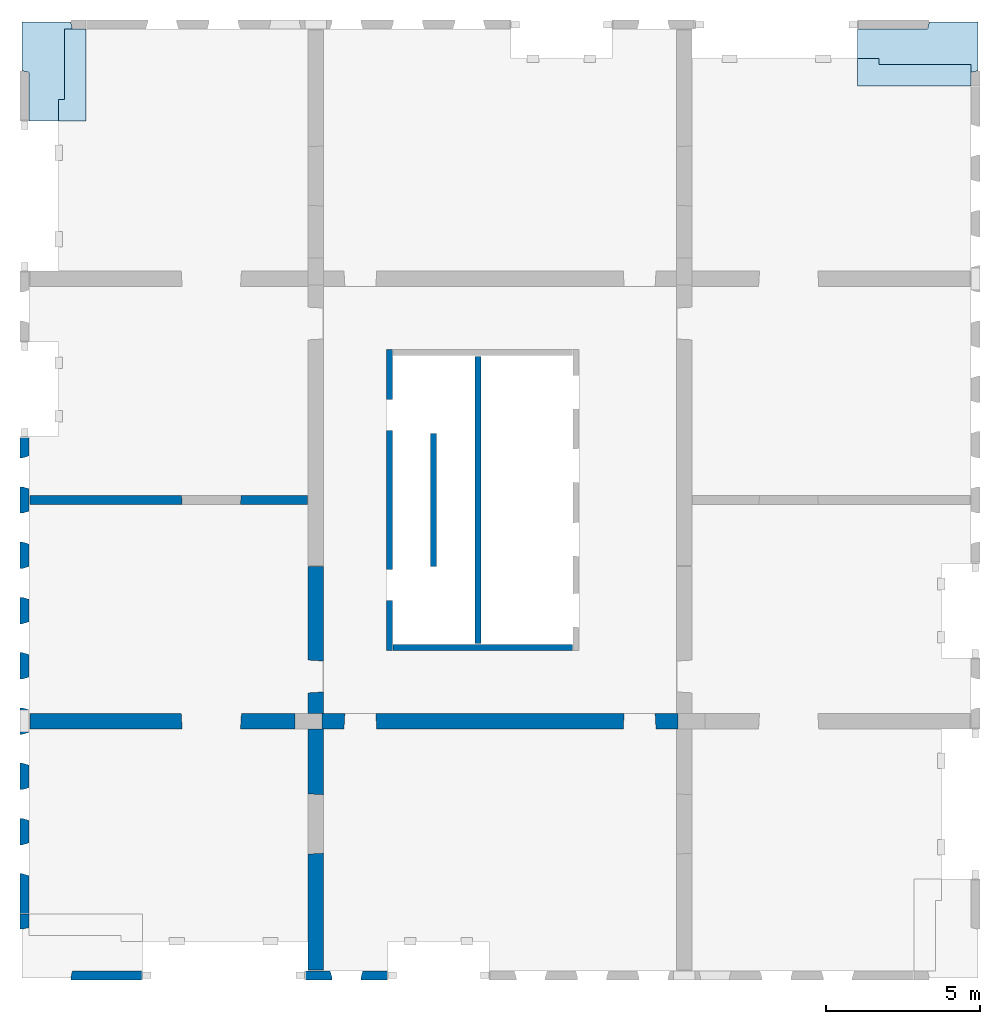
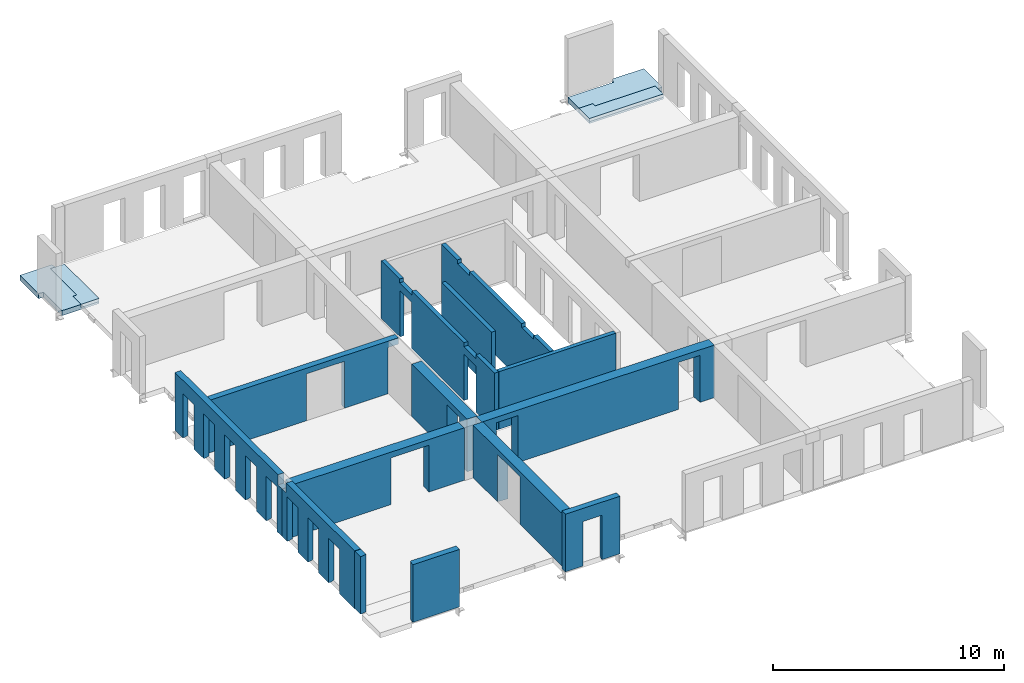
# One storey, part 2 of 4: 14 walls, 4 slabs, 32 openings.
"""IFC2X3 building model written with IfcOpenShell, lengths in millimetres."""

from ifc_helpers import new_model, entity, si_unit, converted_unit, derived_unit, direction, frame, frame_2d, origin, origin_2d_with_axis, place, context, subcontext, project, spatial, polyline, rectangle, outline, extrude, faceted_brep, material, layer, layer_set, layer_usage, type_object, element, save


model = new_model("IFC2X3")

# Units and contexts
model_context = context("Model", 3, precision=0.01, world=origin(), true_north=direction((6.12303176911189e-17, 1.0)))
body_context = subcontext(model_context, "Body", "Model", "MODEL_VIEW")
ifc_project = project(units=[si_unit("LENGTHUNIT", "METRE", prefix="MILLI"), si_unit("AREAUNIT", "SQUARE_METRE"), si_unit("VOLUMEUNIT", "CUBIC_METRE"), converted_unit("PLANEANGLEUNIT", "DEGREE", entity("IfcRatioMeasure", 0.0174532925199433), si_unit("PLANEANGLEUNIT", "RADIAN"), dimensions=[0, 0, 0, 0, 0, 0, 0]), si_unit("MASSUNIT", "GRAM", prefix="KILO"), derived_unit("MASSDENSITYUNIT", [(si_unit("MASSUNIT", "GRAM", prefix="KILO"), 1), (si_unit("LENGTHUNIT", "METRE"), -3)]), si_unit("TIMEUNIT", "SECOND"), si_unit("FREQUENCYUNIT", "HERTZ"), si_unit("THERMODYNAMICTEMPERATUREUNIT", "DEGREE_CELSIUS"), derived_unit("THERMALTRANSMITTANCEUNIT", [(si_unit("MASSUNIT", "GRAM", prefix="KILO"), 1), (si_unit("THERMODYNAMICTEMPERATUREUNIT", "KELVIN"), -1), (si_unit("TIMEUNIT", "SECOND"), -3)]), derived_unit("VOLUMETRICFLOWRATEUNIT", [(si_unit("LENGTHUNIT", "METRE"), 3), (si_unit("TIMEUNIT", "SECOND"), -1)]), si_unit("ELECTRICCURRENTUNIT", "AMPERE"), si_unit("ELECTRICVOLTAGEUNIT", "VOLT"), si_unit("POWERUNIT", "WATT"), si_unit("FORCEUNIT", "NEWTON", prefix="KILO"), si_unit("ILLUMINANCEUNIT", "LUX"), si_unit("LUMINOUSFLUXUNIT", "LUMEN"), si_unit("LUMINOUSINTENSITYUNIT", "CANDELA"), derived_unit("USERDEFINED", [(si_unit("MASSUNIT", "GRAM", prefix="KILO"), -1), (si_unit("LENGTHUNIT", "METRE"), -2), (si_unit("TIMEUNIT", "SECOND"), 3), (si_unit("LUMINOUSFLUXUNIT", "LUMEN"), 1)]), derived_unit("LINEARVELOCITYUNIT", [(si_unit("LENGTHUNIT", "METRE"), 1), (si_unit("TIMEUNIT", "SECOND"), -1)]), si_unit("PRESSUREUNIT", "PASCAL"), derived_unit("USERDEFINED", [(si_unit("LENGTHUNIT", "METRE"), -2), (si_unit("MASSUNIT", "GRAM", prefix="KILO"), 1), (si_unit("TIMEUNIT", "SECOND"), -2)])], contexts=[model_context])

# Site, building, storey
site_placement = place(None, origin())
site = spatial("IfcSite", under=ifc_project, at=site_placement, Name="Default", CompositionType="ELEMENT")
building_placement = place(site_placement, origin())
building = spatial("IfcBuilding", under=site, at=building_placement, Name="niet gebruiken", CompositionType="ELEMENT")
storey_placement = place(building_placement, frame((0.0, 0.0, 60840.0)))
storey = spatial("IfcBuildingStorey", under=building, at=storey_placement, Name="19 negentiende verdieping", CompositionType="ELEMENT", Elevation=60840.0)

# Slabs
ifc_material_1 = material(Name="NLRS_f2_beton prefab")
ifc_layer_1 = layer(ifc_material_1, 270.0)
ifc_layer_set_1 = layer_set([ifc_layer_1], Name="Floor:NLRS_23.22_FL_beton prefab d=270 3D element_gen")
ifc_layer_usage_1 = layer_usage(ifc_layer_set_1, "AXIS3", "POSITIVE", 0.0)
slab_1_placement = place(storey_placement, origin())
element("IfcSlab", 1, at=slab_1_placement, inside=storey, material=ifc_layer_usage_1, Name="Floor:NLRS_23.22_FL_beton prefab d=270 3D element_gen", ObjectType="Floor:NLRS_23.22_FL_beton prefab d=270 3D element_gen", PredefinedType="LANDING", context=body_context, shape_type="SweptSolid", body=[
    extrude(outline(polyline([(-322.675940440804, -982.471394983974), (1267.47139498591, -982.471394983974), (1267.47139498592, 607.675940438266), (1034.47139498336, 655.152429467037), (1034.47139498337, 1100.5286050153), (-1955.52860501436, 1100.52860501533), (-1955.52860501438, -749.471394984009), (-370.152429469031, -749.471394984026), (-322.675940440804, -982.471394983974)])), frame((127169.471394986, 31795.5286050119, -90.0), z_axis=(0.0, 0.0, -1.0), x_axis=(0.0, 1.0, 0.0)), (0.0, 0.0, 1.0), 269.999999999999),
])
ifc_material_2 = material(Name="NLRS_f2_beton ihwg")
ifc_layer_2 = layer(ifc_material_2, 170.0)
ifc_layer_set_2 = layer_set([ifc_layer_2], Name="Floor:NLRS_23.21_FL_beton ihwg d=170_gen")
ifc_layer_usage_2 = layer_usage(ifc_layer_set_2, "AXIS3", "POSITIVE", 0.0)
slab_2_placement = place(storey_placement, origin())
element("IfcSlab", 2, at=slab_2_placement, inside=storey, material=ifc_layer_usage_2, Name="Floor:NLRS_23.21_FL_beton ihwg d=170_gen", ObjectType="Floor:NLRS_23.21_FL_beton ihwg d=170_gen", PredefinedType="FLOOR", context=body_context, shape_type="SweptSolid", body=[
    extrude(outline(polyline([(-1230.0, -366.666666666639), (-530.0, -366.666666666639), (-530.0, -166.66666666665), (1760.0, -166.666666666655), (1760.0, 533.333333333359), (-1230.0, 533.333333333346), (-1230.0, -366.666666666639)])), frame((127736.666666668, 31070.0, -90.0), z_axis=(0.0, 0.0, -1.0), x_axis=(0.0, 1.0, 0.0)), (0.0, 0.0, 1.0), 169.999999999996),
])
ifc_layer_usage_3 = layer_usage(ifc_layer_set_1, "AXIS3", "POSITIVE", 0.0)
slab_3_placement = place(storey_placement, origin())
element("IfcSlab", 3, at=slab_3_placement, inside=storey, material=ifc_layer_usage_3, Name="Floor:NLRS_23.22_FL_beton prefab d=270 3D element_gen", ObjectType="Floor:NLRS_23.22_FL_beton prefab d=270 3D element_gen", PredefinedType="LANDING", context=body_context, shape_type="SweptSolid", body=[
    extrude(outline(polyline([(-1100.52860501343, -2480.52860501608), (749.471394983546, -2480.52860501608), (749.471394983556, -195.152429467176), (982.471394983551, -147.675940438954), (982.471394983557, 1442.47139498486), (-607.675940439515, 1442.47139498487), (-655.152429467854, 1209.47139498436), (-1100.52860501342, 1209.47139498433), (-1100.52860501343, -2480.52860501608)])), frame((155870.528605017, 32080.5286050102, -90.0), z_axis=(0.0, 0.0, -1.0), x_axis=(0.0, 1.0, 0.0)), (0.0, 0.0, 1.0), 269.999999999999),
])
ifc_layer_usage_4 = layer_usage(ifc_layer_set_2, "AXIS3", "POSITIVE", 0.0)
slab_4_placement = place(storey_placement, origin())
element("IfcSlab", 4, at=slab_4_placement, inside=storey, material=ifc_layer_usage_4, Name="Floor:NLRS_23.21_FL_beton ihwg d=170_gen", ObjectType="Floor:NLRS_23.21_FL_beton ihwg d=170_gen", PredefinedType="FLOOR", context=body_context, shape_type="SweptSolid", body=[
    extrude(outline(polyline([(-533.333333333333, -1463.33333333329), (366.666666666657, -1463.33333333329), (366.666666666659, -763.333333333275), (166.66666666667, -763.333333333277), (166.666666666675, 2226.66666666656), (-533.333333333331, 2226.66666666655), (-533.333333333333, -1463.33333333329)])), frame((154853.333333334, 31513.3333333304, -90.0), z_axis=(0.0, 0.0, -1.0), x_axis=(0.0, 1.0, 0.0)), (0.0, 0.0, 1.0), 169.999999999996),
])

# Wall, openings
ifc_layer_3 = layer(ifc_material_1, 200.0)
ifc_layer_set_3 = layer_set([ifc_layer_3], Name="Basic Wall:NLRS_22.21_WA_beton prefab d=200_gen")
ifc_layer_usage_5 = layer_usage(ifc_layer_set_3, "AXIS2", "NEGATIVE", 100.0)
wall_type_1 = type_object("IfcWallType", Name="Basic Wall:NLRS_22.21_WA_beton prefab d=200_gen", PredefinedType="STANDARD", material=ifc_layer_set_3)
wall_1_placement = place(storey_placement, frame((138150.0, 22400.0, -50.0), z_axis=(0.0, 0.0, 1.0), x_axis=(0.0, -1.0, 0.0)))
wall_1 = element("IfcWallStandardCase", 5, at=wall_1_placement, inside=storey, type_object=wall_type_1, material=ifc_layer_usage_5, Name="Basic Wall:NLRS_22.21_WA_beton prefab d=200_gen", ObjectType="Basic Wall:NLRS_22.21_WA_beton prefab d=200_gen", context=body_context, shape_type="SweptSolid", body=[
    extrude(rectangle(XDim=9800.0, YDim=199.999999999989, at=frame_2d((4900.0, 3.76587649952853e-13), x_axis=(-1.0, 0.0))), origin(), (0.0, 0.0, 1.0), 3040.0),
])
opening_1_placement = place(wall_1_placement, origin())
element("IfcOpeningElement", 6, at=opening_1_placement, cuts=wall_1, Name="Basic Wall:NLRS_22.21_WA_beton prefab d=200_gen", ObjectType="Opening", context=body_context, shape_type="SweptSolid", body=[
    extrude(rectangle(XDim=199.999999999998, YDim=1044.0, at=frame_2d((4.33431068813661e-12, 0.0), x_axis=(1.0, 0.0))), frame((7672.0, -100.0, 2940.0), z_axis=(0.0, 1.0, 0.0), x_axis=(0.0, 0.0, -1.0)), (0.0, 0.0, 1.0), 199.999999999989),
])
opening_2_placement = place(wall_1_placement, origin())
element("IfcOpeningElement", 7, at=opening_2_placement, cuts=wall_1, Name="Basic Wall:NLRS_22.21_WA_beton prefab d=200_gen", ObjectType="Opening", context=body_context, shape_type="SweptSolid", body=[
    extrude(rectangle(XDim=199.999999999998, YDim=1044.0, at=frame_2d((4.33431068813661e-12, 2.1600499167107e-12), x_axis=(1.0, 0.0))), frame((2128.0, -100.0, 2940.0), z_axis=(0.0, 1.0, 0.0), x_axis=(0.0, 0.0, -1.0)), (0.0, 0.0, 1.0), 199.999999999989),
])
opening_3_placement = place(wall_1_placement, origin())
element("IfcOpeningElement", 8, at=opening_3_placement, cuts=wall_1, Name="Basic Wall:NLRS_22.21_WA_beton prefab d=200_gen", ObjectType="Opening", context=body_context, shape_type="SweptSolid", body=[
    extrude(rectangle(XDim=2435.00000000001, YDim=1015.99999999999, at=frame_2d((4.32009983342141e-12, 1.10844666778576e-12), x_axis=(1.0, 0.0))), frame((7672.0, -100.0, 1217.50000000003), z_axis=(0.0, 1.0, 0.0), x_axis=(0.0, 0.0, -1.0)), (0.0, 0.0, 1.0), 199.999999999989),
])
opening_4_placement = place(wall_1_placement, origin())
element("IfcOpeningElement", 9, at=opening_4_placement, cuts=wall_1, Name="Basic Wall:NLRS_22.21_WA_beton prefab d=200_gen", ObjectType="Opening", context=body_context, shape_type="SweptSolid", body=[
    extrude(rectangle(XDim=2435.00000000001, YDim=1015.99999999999, at=frame_2d((4.32009983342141e-12, -2.18847162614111e-12), x_axis=(1.0, 0.0))), frame((2128.0, -100.0, 1217.50000000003), z_axis=(0.0, 1.0, 0.0), x_axis=(0.0, 0.0, -1.0)), (0.0, 0.0, 1.0), 199.999999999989),
])

ifc_layer_usage_6 = layer_usage(ifc_layer_set_3, "AXIS2", "NEGATIVE", 100.0)
wall_2_placement = place(storey_placement, frame((141030.0, 22180.0, -50.0), z_axis=(0.0, 0.0, 1.0), x_axis=(0.0, -1.0, 0.0)))
wall_2 = element("IfcWallStandardCase", 10, at=wall_2_placement, inside=storey, type_object=wall_type_1, material=ifc_layer_usage_6, Name="Basic Wall:NLRS_22.21_WA_beton prefab d=200_gen", ObjectType="Basic Wall:NLRS_22.21_WA_beton prefab d=200_gen", context=body_context, shape_type="SweptSolid", body=[
    extrude(rectangle(XDim=9360.0, YDim=199.999999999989, at=frame_2d((4680.0, -2.8421709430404e-14), x_axis=(-1.0, 0.0))), origin(), (0.0, 0.0, 1.0), 3040.0),
])
opening_5_placement = place(wall_2_placement, origin())
element("IfcOpeningElement", 11, at=opening_5_placement, cuts=wall_2, Name="Basic Wall:NLRS_22.21_WA_beton prefab d=200_gen", ObjectType="Opening", context=body_context, shape_type="SweptSolid", body=[
    extrude(rectangle(XDim=70.0000000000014, YDim=1044.00000000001, at=origin_2d_with_axis()), frame((7452.0, -100.0, 35.0), z_axis=(0.0, 1.0, 0.0), x_axis=(0.0, 0.0, -1.0)), (0.0, 0.0, 1.0), 199.999999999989),
])
opening_6_placement = place(wall_2_placement, origin())
element("IfcOpeningElement", 12, at=opening_6_placement, cuts=wall_2, Name="Basic Wall:NLRS_22.21_WA_beton prefab d=200_gen", ObjectType="Opening", context=body_context, shape_type="SweptSolid", body=[
    extrude(rectangle(XDim=70.0000000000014, YDim=1044.00000000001, at=origin_2d_with_axis()), frame((1908.0, -100.0, 35.0), z_axis=(0.0, 1.0, 0.0), x_axis=(0.0, 0.0, -1.0)), (0.0, 0.0, 1.0), 199.999999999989),
])
opening_7_placement = place(wall_2_placement, origin())
element("IfcOpeningElement", 13, at=opening_7_placement, cuts=wall_2, Name="Basic Wall:NLRS_22.21_WA_beton prefab d=200_gen", ObjectType="Opening", context=body_context, shape_type="SweptSolid", body=[
    extrude(rectangle(XDim=199.999999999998, YDim=1044.00000000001, at=frame_2d((4.33431068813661e-12, 0.0), x_axis=(1.0, 0.0))), frame((1908.0, -100.0, 2940.0), z_axis=(0.0, 1.0, 0.0), x_axis=(0.0, 0.0, -1.0)), (0.0, 0.0, 1.0), 199.999999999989),
])
opening_8_placement = place(wall_2_placement, origin())
element("IfcOpeningElement", 14, at=opening_8_placement, cuts=wall_2, Name="Basic Wall:NLRS_22.21_WA_beton prefab d=200_gen", ObjectType="Opening", context=body_context, shape_type="SweptSolid", body=[
    extrude(rectangle(XDim=199.999999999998, YDim=1044.00000000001, at=frame_2d((4.33431068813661e-12, 0.0), x_axis=(1.0, 0.0))), frame((7452.0, -100.0, 2940.0), z_axis=(0.0, 1.0, 0.0), x_axis=(0.0, 0.0, -1.0)), (0.0, 0.0, 1.0), 199.999999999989),
])
opening_9_placement = place(wall_2_placement, origin())
element("IfcOpeningElement", 15, at=opening_9_placement, cuts=wall_2, Name="Basic Wall:NLRS_22.21_WA_beton prefab d=200_gen", ObjectType="Recess", context=body_context, shape_type="SweptSolid", body=[
    extrude(rectangle(XDim=399.999999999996, YDim=280.000000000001, at=frame_2d((-2.1600499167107e-12, 0.0), x_axis=(0.0, 1.0))), frame((770.0, -60.0, 438.0), z_axis=(0.0, 1.0, 0.0), x_axis=(1.0, 0.0, 0.0)), (0.0, 0.0, 1.0), 159.999999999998),
])
opening_10_placement = place(wall_2_placement, origin())
element("IfcOpeningElement", 16, at=opening_10_placement, cuts=wall_2, Name="Basic Wall:NLRS_22.21_WA_beton prefab d=200_gen", ObjectType="Recess", context=body_context, shape_type="SweptSolid", body=[
    extrude(rectangle(XDim=399.999999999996, YDim=280.000000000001, at=frame_2d((-2.1600499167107e-12, 0.0), x_axis=(0.0, 1.0))), frame((1570.0, -60.0, 438.0), z_axis=(0.0, 1.0, 0.0), x_axis=(1.0, 0.0, 0.0)), (0.0, 0.0, 1.0), 159.999999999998),
])
opening_11_placement = place(wall_2_placement, origin())
element("IfcOpeningElement", 17, at=opening_11_placement, cuts=wall_2, Name="Basic Wall:NLRS_22.21_WA_beton prefab d=200_gen", ObjectType="Recess", context=body_context, shape_type="SweptSolid", body=[
    extrude(rectangle(XDim=399.999999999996, YDim=279.999999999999, at=frame_2d((-1.08002495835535e-12, 0.0), x_axis=(0.0, 1.0))), frame((3160.0, -60.0, 438.0), z_axis=(0.0, 1.0, 0.0), x_axis=(1.0, 0.0, 0.0)), (0.0, 0.0, 1.0), 159.999999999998),
])
opening_12_placement = place(wall_2_placement, origin())
element("IfcOpeningElement", 18, at=opening_12_placement, cuts=wall_2, Name="Basic Wall:NLRS_22.21_WA_beton prefab d=200_gen", ObjectType="Recess", context=body_context, shape_type="SweptSolid", body=[
    extrude(rectangle(XDim=399.999999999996, YDim=279.999999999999, at=frame_2d((1.08002495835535e-12, 0.0), x_axis=(0.0, 1.0))), frame((3960.0, -60.0, 438.0), z_axis=(0.0, 1.0, 0.0), x_axis=(1.0, 0.0, 0.0)), (0.0, 0.0, 1.0), 159.999999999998),
])

# Walls
ifc_layer_usage_7 = layer_usage(ifc_layer_set_3, "AXIS2", "NEGATIVE", 100.0)
wall_3_placement = place(storey_placement, frame((139590.0, 19660.0, -50.0), z_axis=(0.0, 0.0, 1.0), x_axis=(0.0, -1.0, 0.0)))
element("IfcWallStandardCase", 19, at=wall_3_placement, inside=storey, type_object=wall_type_1, material=ifc_layer_usage_7, Name="Basic Wall:NLRS_22.21_WA_beton prefab d=200_gen", ObjectType="Basic Wall:NLRS_22.21_WA_beton prefab d=200_gen", context=body_context, shape_type="SweptSolid", body=[
    extrude(rectangle(XDim=4320.00000000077, YDim=199.999999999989, at=frame_2d((2160.00000000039, 0.0), x_axis=(-1.0, 0.0))), origin(), (0.0, 0.0, 1.0), 3040.0),
])
ifc_layer_usage_8 = layer_usage(ifc_layer_set_3, "AXIS2", "NEGATIVE", 100.0)
wall_4_placement = place(storey_placement, frame((138270.0, 12700.0, -50.0)))
element("IfcWallStandardCase", 20, at=wall_4_placement, inside=storey, type_object=wall_type_1, material=ifc_layer_usage_8, Name="Basic Wall:NLRS_22.21_WA_beton prefab d=200_gen", ObjectType="Basic Wall:NLRS_22.21_WA_beton prefab d=200_gen", context=body_context, shape_type="SweptSolid", body=[
    extrude(rectangle(XDim=5839.99999999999, YDim=199.999999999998, at=frame_2d((2919.99999999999, -6.82121026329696e-13), x_axis=(-1.0, 0.0))), origin(), (0.0, 0.0, 1.0), 3040.0),
])

# Wall, openings
ifc_layer_4 = layer(ifc_material_1, 300.0)
ifc_layer_set_4 = layer_set([ifc_layer_4], Name="Basic Wall:NLRS_22.21_WA_beton prefab d=300_gen")
ifc_layer_usage_9 = layer_usage(ifc_layer_set_4, "AXIS2", "NEGATIVE", 150.0)
wall_type_2 = type_object("IfcWallType", Name="Basic Wall:NLRS_22.21_WA_beton prefab d=300_gen", PredefinedType="STANDARD", material=ifc_layer_set_4)
wall_5_placement = place(storey_placement, frame((126440.0, 17500.0, -70.0)))
wall_5 = element("IfcWallStandardCase", 21, at=wall_5_placement, inside=storey, type_object=wall_type_2, material=ifc_layer_usage_9, Name="Basic Wall:NLRS_22.21_WA_beton prefab d=300_gen", ObjectType="Basic Wall:NLRS_22.21_WA_beton prefab d=300_gen", context=body_context, shape_type="SweptSolid", body=[
    extrude(rectangle(XDim=9559.9999999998, YDim=300.000000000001, at=frame_2d((4779.9999999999, -4.2632564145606e-14), x_axis=(-1.0, 0.0))), origin(), (0.0, 0.0, 1.0), 2769.99999999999),
])
opening_13_placement = place(wall_5_placement, frame((4942.0, -150.0, 0.0)))
element("IfcOpeningElement", 22, at=opening_13_placement, cuts=wall_5, Name="Basic Wall:NLRS_22.21_WA_beton prefab d=300_gen", ObjectType="Opening", context=body_context, shape_type="Brep", body=[
    faceted_brep([(1918.0, 0.0, 2470.0), (18.0, 0.0, 2470.0), (18.0, 0.0, 0.0), (1918.0, 0.0, 0.0), (1936.0, 300.0, 2488.0), (1936.0, 300.0, 0.0), (0.0, 300.0, 0.0), (0.0, 300.0, 2488.0)], [[[0, 1, 2, 3]], [[4, 5, 6, 7]], [[4, 7, 1, 0]], [[7, 6, 2, 1]], [[6, 5, 3, 2]], [[5, 4, 0, 3]]]),
])
opening_14_placement = place(wall_5_placement, origin())
element("IfcOpeningElement", 23, at=opening_14_placement, cuts=wall_5, Name="Basic Wall:NLRS_22.21_WA_beton prefab d=300_gen", ObjectType="Opening", context=body_context, shape_type="SweptSolid", body=[
    extrude(rectangle(XDim=2440.0, YDim=520.000000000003, at=frame_2d((8.64019966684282e-12, 0.0), x_axis=(0.0, 1.0))), frame((9300.0, 150.0, 1220.0), z_axis=(0.0, -1.0, 0.0), x_axis=(1.0, 0.0, 0.0)), (0.0, 0.0, 1.0), 300.0),
])

# Wall, opening
ifc_layer_5 = layer(ifc_material_1, 500.0)
ifc_layer_set_5 = layer_set([ifc_layer_5], Name="Basic Wall:NLRS_22.21_WA_beton prefab d=500_gen")
ifc_layer_usage_10 = layer_usage(ifc_layer_set_5, "AXIS2", "NEGATIVE", 250.0)
wall_type_3 = type_object("IfcWallType", Name="Basic Wall:NLRS_22.21_WA_beton prefab d=500_gen", PredefinedType="STANDARD", material=ifc_layer_set_5)
wall_6_placement = place(storey_placement, frame((135750.0, 10050.0, -70.0), z_axis=(0.0, 0.0, 1.0), x_axis=(0.0, -1.0, 0.0)))
wall_6 = element("IfcWallStandardCase", 24, at=wall_6_placement, inside=storey, type_object=wall_type_3, material=ifc_layer_usage_10, Name="Basic Wall:NLRS_22.21_WA_beton prefab d=500_gen", ObjectType="Basic Wall:NLRS_22.21_WA_beton prefab d=500_gen", context=body_context, shape_type="SweptSolid", body=[
    extrude(rectangle(XDim=7859.99999999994, YDim=499.99999999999, at=frame_2d((3929.99999999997, 8.5265128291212e-14), x_axis=(-1.0, 0.0))), origin(), (0.0, 0.0, 1.0), 2769.99999999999),
])
opening_15_placement = place(wall_6_placement, frame((4080.0, -250.0, 0.0)))
element("IfcOpeningElement", 25, at=opening_15_placement, cuts=wall_6, Name="Basic Wall:NLRS_22.21_WA_beton prefab d=500_gen", ObjectType="Opening", context=body_context, shape_type="Brep", body=[
    faceted_brep([(-30.0, 500.0, 2470.0), (-30.0, 500.0, 0.0), (-1930.0, 500.0, 0.0), (-1930.0, 500.0, 2470.0), (0.0, 0.0, 2500.0), (-1960.0, 0.0, 2500.0), (-1960.0, 0.0, 0.0), (0.0, 0.0, 0.0)], [[[0, 1, 2, 3]], [[4, 5, 6, 7]], [[4, 0, 3, 5]], [[5, 3, 2, 6]], [[6, 2, 1, 7]], [[7, 1, 0, 4]]]),
])

# Wall, openings
ifc_layer_usage_11 = layer_usage(ifc_layer_set_5, "AXIS2", "NEGATIVE", 250.0)
wall_7_placement = place(storey_placement, frame((135950.003540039, 10300.0, -70.0)))
wall_7 = element("IfcWallStandardCase", 26, at=wall_7_placement, inside=storey, type_object=wall_type_3, material=ifc_layer_usage_11, Name="Basic Wall:NLRS_22.21_WA_beton prefab d=500_gen", ObjectType="Basic Wall:NLRS_22.21_WA_beton prefab d=500_gen", context=body_context, shape_type="SweptSolid", body=[
    extrude(rectangle(XDim=11599.9964599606, YDim=499.999999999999, at=frame_2d((5799.9982299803, 1.4210854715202e-13), x_axis=(-1.0, 0.0))), origin(), (0.0, 0.0, 1.0), 2770.00000000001),
])
opening_16_placement = place(wall_7_placement, frame((719.996459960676, -250.0, 0.0)))
element("IfcOpeningElement", 27, at=opening_16_placement, cuts=wall_7, Name="Basic Wall:NLRS_22.21_WA_beton prefab d=500_gen", ObjectType="Opening", context=body_context, shape_type="Brep", body=[
    faceted_brep([(0.0, 0.0, 2478.0), (30.0, 500.0, 2448.0), (30.0, 500.0, 0.0), (0.0, 0.0, 0.0), (1036.0, 500.0, 0.0), (1066.0, 0.0, 0.0), (1036.0, 500.0, 2448.0), (1066.0, 0.0, 2478.0)], [[[0, 1, 2, 3]], [[3, 2, 4, 5]], [[6, 4, 2, 1]], [[7, 0, 3, 5]], [[7, 6, 1, 0]], [[5, 4, 6, 7]]]),
])
opening_17_placement = place(wall_7_placement, frame((9813.99645996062, -250.0, 0.0)))
element("IfcOpeningElement", 28, at=opening_17_placement, cuts=wall_7, Name="Basic Wall:NLRS_22.21_WA_beton prefab d=500_gen", ObjectType="Opening", context=body_context, shape_type="Brep", body=[
    faceted_brep([(0.0, 0.0, 2478.0), (30.0, 500.0, 2448.0), (30.0, 500.0, 0.0), (0.0, 0.0, 0.0), (1036.0, 500.0, 0.0), (1066.0, 0.0, 0.0), (1036.0, 500.0, 2448.0), (1066.0, 0.0, 2478.0)], [[[0, 1, 2, 3]], [[3, 2, 4, 5]], [[6, 4, 2, 1]], [[7, 0, 3, 5]], [[7, 6, 1, 0]], [[5, 4, 6, 7]]]),
])

# Wall, opening
ifc_layer_usage_12 = layer_usage(ifc_layer_set_5, "AXIS2", "NEGATIVE", 250.0)
wall_8_placement = place(storey_placement, frame((126440.0, 10300.0, -70.0)))
wall_8 = element("IfcWallStandardCase", 29, at=wall_8_placement, inside=storey, type_object=wall_type_3, material=ifc_layer_usage_12, Name="Basic Wall:NLRS_22.21_WA_beton prefab d=500_gen", ObjectType="Basic Wall:NLRS_22.21_WA_beton prefab d=500_gen", context=body_context, shape_type="SweptSolid", body=[
    extrude(rectangle(XDim=8630.00354003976, YDim=499.999999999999, at=frame_2d((4315.00177001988, 4.2632564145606e-14), x_axis=(-1.0, 0.0))), origin(), (0.0, 0.0, 1.0), 2769.99999999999),
])
opening_18_placement = place(wall_8_placement, frame((4930.0, -250.0, 0.0)))
element("IfcOpeningElement", 30, at=opening_18_placement, cuts=wall_8, Name="Basic Wall:NLRS_22.21_WA_beton prefab d=500_gen", ObjectType="Opening", context=body_context, shape_type="Brep", body=[
    faceted_brep([(1930.0, 0.0, 2470.0), (30.0, 0.0, 2470.0), (30.0, 0.0, 0.0), (1930.0, 0.0, 0.0), (1960.0, 500.0, 2500.0), (1960.0, 500.0, 0.0), (0.0, 500.0, 0.0), (0.0, 500.0, 2500.0)], [[[0, 1, 2, 3]], [[4, 5, 6, 7]], [[4, 7, 1, 0]], [[7, 6, 2, 1]], [[6, 5, 3, 2]], [[5, 4, 0, 3]]]),
])

ifc_layer_usage_13 = layer_usage(ifc_layer_set_5, "AXIS2", "NEGATIVE", 250.0)
wall_9_placement = place(storey_placement, frame((135750.0, 15340.0, -70.0), z_axis=(0.0, 0.0, 1.0), x_axis=(0.0, -1.0, 0.0)))
wall_9 = element("IfcWallStandardCase", 31, at=wall_9_placement, inside=storey, type_object=wall_type_3, material=ifc_layer_usage_13, Name="Basic Wall:NLRS_22.21_WA_beton prefab d=500_gen", ObjectType="Basic Wall:NLRS_22.21_WA_beton prefab d=500_gen", context=body_context, shape_type="SweptSolid", body=[
    extrude(rectangle(XDim=4789.99999999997, YDim=499.99999999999, at=frame_2d((2394.99999999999, 0.0), x_axis=(-1.0, 0.0))), origin(), (0.0, 0.0, 1.0), 2770.00000000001),
])
opening_19_placement = place(wall_9_placement, frame((4120.0, -250.0, 0.0)))
element("IfcOpeningElement", 32, at=opening_19_placement, cuts=wall_9, Name="Basic Wall:NLRS_22.21_WA_beton prefab d=500_gen", ObjectType="Opening", context=body_context, shape_type="Brep", body=[
    faceted_brep([(-1066.0, 0.0, 2478.0), (-1036.0, 500.0, 2448.0), (-1036.0, 500.0, 0.0), (-1066.0, 0.0, 0.0), (-30.0, 500.0, 0.0), (0.0, 0.0, 0.0), (-30.0, 500.0, 2448.0), (0.0, 0.0, 2478.0)], [[[0, 1, 2, 3]], [[3, 2, 4, 5]], [[6, 4, 2, 1]], [[7, 0, 3, 5]], [[7, 6, 1, 0]], [[5, 4, 6, 7]]]),
])

ifc_layer_6 = layer(ifc_material_1, 300.0)
ifc_layer_set_6 = layer_set([ifc_layer_6], Name="Basic Wall:NLRS_21.21_WA_beton prefab d=300/320_gen")
ifc_layer_usage_14 = layer_usage(ifc_layer_set_6, "AXIS2", "NEGATIVE", 150.0)
wall_type_4 = type_object("IfcWallType", Name="Basic Wall:NLRS_21.21_WA_beton prefab d=300/320_gen", PredefinedType="STANDARD", material=ifc_layer_set_6)
wall_10_placement = place(storey_placement, frame((138110.0, 2020.0, -50.0), z_axis=(0.0, 0.0, 1.0), x_axis=(-1.0, 0.0, 0.0)))
wall_10 = element("IfcWallStandardCase", 33, at=wall_10_placement, inside=storey, type_object=wall_type_4, material=ifc_layer_usage_14, Name="Basic Wall:NLRS_21.21_WA_beton prefab d=300/320_gen", ObjectType="Basic Wall:NLRS_21.21_WA_beton prefab d=300/320_gen", context=body_context, shape_type="SweptSolid", body=[
    extrude(rectangle(XDim=2720.00000000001, YDim=300.0, at=frame_2d((1360.0, -8.5265128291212e-14), x_axis=(-1.0, 0.0))), origin(), (0.0, 0.0, 1.0), 3040.0),
])
opening_20_placement = place(wall_10_placement, frame((1895.0, 150.0, -20.0)))
element("IfcOpeningElement", 34, at=opening_20_placement, cuts=wall_10, Name="Basic Wall:NLRS_21.21_WA_beton prefab d=300/320_gen", ObjectType="Opening", context=body_context, shape_type="Brep", body=[
    faceted_brep([(-1070.0, -300.0, 2405.0), (-1070.0, -300.0, 0.0), (0.0, -300.0, 0.0), (0.0, -300.0, 2405.0), (-65.0, -81.0, 2370.0), (-1005.0, -81.0, 2370.0), (-65.0, -81.0, 0.0), (-1005.0, -81.0, 0.0), (-1005.0, 0.0, 0.0), (-65.0, 0.0, 0.0), (-1005.0, 0.0, 2370.0), (-65.0, 0.0, 2370.0)], [[[0, 1, 2, 3]], [[3, 4, 5, 0]], [[2, 6, 4, 3]], [[1, 7, 8, 9, 6, 2]], [[0, 5, 7, 1]], [[10, 11, 9, 8]], [[10, 5, 4, 11]], [[11, 4, 6, 9]], [[8, 7, 5, 10]]]),
])

# Wall, openings
ifc_layer_usage_15 = layer_usage(ifc_layer_set_6, "AXIS2", "NEGATIVE", 150.0)
wall_11_placement = place(storey_placement, frame((126270.0, 4040.0, -50.0), z_axis=(0.0, 0.0, 1.0), x_axis=(0.0, 1.0, 0.0)))
wall_11 = element("IfcWallStandardCase", 35, at=wall_11_placement, inside=storey, type_object=wall_type_4, material=ifc_layer_usage_15, Name="Basic Wall:NLRS_21.21_WA_beton prefab d=300/320_gen", ObjectType="Basic Wall:NLRS_21.21_WA_beton prefab d=300/320_gen", context=body_context, shape_type="SweptSolid", body=[
    extrude(rectangle(XDim=6249.99999999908, YDim=300.000000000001, at=frame_2d((3124.99999999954, 0.0), x_axis=(-1.0, 0.0))), origin(), (0.0, 0.0, 1.0), 3039.99999999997),
])
opening_21_placement = place(wall_11_placement, frame((1225.0, 150.0, -20.0)))
element("IfcOpeningElement", 36, at=opening_21_placement, cuts=wall_11, Name="Basic Wall:NLRS_21.21_WA_beton prefab d=300/320_gen", ObjectType="Opening", context=body_context, shape_type="Brep", body=[
    faceted_brep([(0.0, -300.0, 2405.0), (0.0, -300.0, 0.0), (1070.0, -300.0, 0.0), (1070.0, -300.0, 2405.0), (1005.0, -81.0, 2370.0), (65.0, -81.0, 2370.0), (1005.0, -81.0, 0.0), (65.0, -81.0, 0.0), (65.0, 0.0, 0.0), (1005.0, 0.0, 0.0), (65.0, 0.0, 2370.0), (1005.0, 0.0, 2370.0)], [[[0, 1, 2, 3]], [[3, 4, 5, 0]], [[2, 6, 4, 3]], [[1, 7, 8, 9, 6, 2]], [[0, 5, 7, 1]], [[10, 11, 9, 8]], [[10, 5, 4, 11]], [[11, 4, 6, 9]], [[8, 7, 5, 10]]]),
])
opening_22_placement = place(wall_11_placement, frame((3025.0, 150.0, -20.0)))
element("IfcOpeningElement", 37, at=opening_22_placement, cuts=wall_11, Name="Basic Wall:NLRS_21.21_WA_beton prefab d=300/320_gen", ObjectType="Opening", context=body_context, shape_type="Brep", body=[
    faceted_brep([(0.0, -300.0, 2405.0), (0.0, -300.0, 0.0), (1070.0, -300.0, 0.0), (1070.0, -300.0, 2405.0), (1005.0, -81.0, 2370.0), (65.0, -81.0, 2370.0), (1005.0, -81.0, 0.0), (65.0, -81.0, 0.0), (65.0, 0.0, 0.0), (1005.0, 0.0, 0.0), (65.0, 0.0, 2370.0), (1005.0, 0.0, 2370.0)], [[[0, 1, 2, 3]], [[3, 4, 5, 0]], [[2, 6, 4, 3]], [[1, 7, 8, 9, 6, 2]], [[0, 5, 7, 1]], [[10, 11, 9, 8]], [[10, 5, 4, 11]], [[11, 4, 6, 9]], [[8, 7, 5, 10]]]),
])
opening_23_placement = place(wall_11_placement, frame((4825.0, 150.0, -20.0)))
element("IfcOpeningElement", 38, at=opening_23_placement, cuts=wall_11, Name="Basic Wall:NLRS_21.21_WA_beton prefab d=300/320_gen", ObjectType="Opening", context=body_context, shape_type="Brep", body=[
    faceted_brep([(0.0, -300.0, 2405.0), (0.0, -300.0, 0.0), (1070.0, -300.0, 0.0), (1070.0, -300.0, 2405.0), (1005.0, -81.0, 2370.0), (65.0, -81.0, 2370.0), (1005.0, -81.0, 0.0), (65.0, -81.0, 0.0), (65.0, 0.0, 0.0), (1005.0, 0.0, 0.0), (65.0, 0.0, 2370.0), (1005.0, 0.0, 2370.0)], [[[0, 1, 2, 3]], [[3, 4, 5, 0]], [[2, 6, 4, 3]], [[1, 7, 8, 9, 6, 2]], [[0, 5, 7, 1]], [[10, 11, 9, 8]], [[10, 5, 4, 11]], [[11, 4, 6, 9]], [[8, 7, 5, 10]]]),
])
opening_24_placement = place(wall_11_placement, origin())
element("IfcOpeningElement", 39, at=opening_24_placement, cuts=wall_11, Name="Basic Wall:NLRS_21.21_WA_beton prefab d=300/320_gen", ObjectType="Opening", context=body_context, shape_type="SweptSolid", body=[
    extrude(rectangle(XDim=534.99999999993, YDim=344.999999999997, at=frame_2d((0.0, 1.08002495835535e-12), x_axis=(1.0, 0.0))), frame((6077.49999999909, 150.0, 2772.5), z_axis=(0.0, -1.0, 0.0), x_axis=(0.0, 0.0, 1.0)), (0.0, 0.0, 1.0), 300.0),
])

# Wall, opening
ifc_layer_usage_16 = layer_usage(ifc_layer_set_6, "AXIS2", "NEGATIVE", 150.0)
wall_12_placement = place(storey_placement, frame((130110.0, 2020.0, -50.0), z_axis=(0.0, 0.0, 1.0), x_axis=(-1.0, 0.0, 0.0)))
wall_12 = element("IfcWallStandardCase", 40, at=wall_12_placement, inside=storey, type_object=wall_type_4, material=ifc_layer_usage_16, Name="Basic Wall:NLRS_21.21_WA_beton prefab d=300/320_gen", ObjectType="Basic Wall:NLRS_21.21_WA_beton prefab d=300/320_gen", context=body_context, shape_type="SweptSolid", body=[
    extrude(rectangle(XDim=2330.00000000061, YDim=300.0, at=frame_2d((1165.00000000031, -5.6843418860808e-14), x_axis=(-1.0, 0.0))), origin(), (0.0, 0.0, 1.0), 3040.0),
])
opening_25_placement = place(wall_12_placement, frame((2330.0, 69.0, 0.0)))
element("IfcOpeningElement", 41, at=opening_25_placement, cuts=wall_12, Name="Basic Wall:NLRS_21.21_WA_beton prefab d=300/320_gen", ObjectType="Opening", context=body_context, shape_type="Brep", body=[
    faceted_brep([(0.0, -319.0, 3040.0), (0.0, 0.0, 3040.0), (-65.0, -319.0, 3040.0), (0.0, -319.0, 0.0), (-65.0, -319.0, 0.0), (0.0, 0.0, 0.0)], [[[0, 1, 2]], [[3, 4, 5]], [[2, 4, 3, 0]], [[0, 3, 5, 1]], [[1, 5, 4, 2]]]),
])

ifc_layer_usage_17 = layer_usage(ifc_layer_set_6, "AXIS2", "NEGATIVE", 150.0)
wall_13_placement = place(storey_placement, frame((126270.0, 3530.0, -50.0), z_axis=(0.0, 0.0, 1.0), x_axis=(0.0, 1.0, 0.0)))
wall_13 = element("IfcWallStandardCase", 42, at=wall_13_placement, inside=storey, type_object=wall_type_4, material=ifc_layer_usage_17, Name="Basic Wall:NLRS_21.21_WA_beton prefab d=300/320_gen", ObjectType="Basic Wall:NLRS_21.21_WA_beton prefab d=300/320_gen", context=body_context, shape_type="SweptSolid", body=[
    extrude(rectangle(XDim=489.999999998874, YDim=300.000000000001, at=frame_2d((244.999999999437, -3.25428572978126e-12), x_axis=(-1.0, 0.0))), origin(), (0.0, 0.0, 1.0), 3040.0),
])
opening_26_placement = place(wall_13_placement, frame((-1.97405825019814e-09, 69.0, 0.0)))
element("IfcOpeningElement", 43, at=opening_26_placement, cuts=wall_13, Name="Basic Wall:NLRS_21.21_WA_beton prefab d=300/320_gen", ObjectType="Opening", context=body_context, shape_type="Brep", body=[
    faceted_brep([(0.0, -319.0, 3040.0), (65.0, -319.0, 3040.0), (0.0, 0.0, 3040.0), (0.0, -319.0, 0.0), (0.0, 0.0, 0.0), (65.0, -319.0, 0.0)], [[[0, 1, 2]], [[3, 4, 5]], [[1, 0, 3, 5]], [[0, 2, 4, 3]], [[2, 1, 5, 4]]]),
])

# Wall, openings
ifc_layer_usage_18 = layer_usage(ifc_layer_set_6, "AXIS2", "NEGATIVE", 150.0)
wall_14_placement = place(storey_placement, frame((126270.0, 10310.0, -50.0), z_axis=(0.0, 0.0, 1.0), x_axis=(0.0, 1.0, 0.0)))
wall_14 = element("IfcWallStandardCase", 44, at=wall_14_placement, inside=storey, type_object=wall_type_4, material=ifc_layer_usage_18, Name="Basic Wall:NLRS_21.21_WA_beton prefab d=300/320_gen", ObjectType="Basic Wall:NLRS_21.21_WA_beton prefab d=300/320_gen", context=body_context, shape_type="SweptSolid", body=[
    extrude(rectangle(XDim=9250.00000000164, YDim=300.000000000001, at=frame_2d((4625.00000000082, 0.0), x_axis=(-1.0, 0.0))), origin(), (0.0, 0.0, 1.0), 3040.0),
])
opening_27_placement = place(wall_14_placement, frame((7555.0, 150.0, -20.0)))
element("IfcOpeningElement", 45, at=opening_27_placement, cuts=wall_14, Name="Basic Wall:NLRS_21.21_WA_beton prefab d=300/320_gen", ObjectType="Opening", context=body_context, shape_type="Brep", body=[
    faceted_brep([(0.0, -300.0, 2405.0), (0.0, -300.0, 0.0), (1070.0, -300.0, 0.0), (1070.0, -300.0, 2405.0), (1005.0, -81.0, 2370.0), (65.0, -81.0, 2370.0), (1005.0, -81.0, 0.0), (65.0, -81.0, 0.0), (65.0, 0.0, 0.0), (1005.0, 0.0, 0.0), (65.0, 0.0, 2370.0), (1005.0, 0.0, 2370.0)], [[[0, 1, 2, 3]], [[3, 4, 5, 0]], [[2, 6, 4, 3]], [[1, 7, 8, 9, 6, 2]], [[0, 5, 7, 1]], [[10, 11, 9, 8]], [[10, 5, 4, 11]], [[11, 4, 6, 9]], [[8, 7, 5, 10]]]),
])
opening_28_placement = place(wall_14_placement, frame((3955.0, 150.0, -20.0)))
element("IfcOpeningElement", 46, at=opening_28_placement, cuts=wall_14, Name="Basic Wall:NLRS_21.21_WA_beton prefab d=300/320_gen", ObjectType="Opening", context=body_context, shape_type="Brep", body=[
    faceted_brep([(0.0, -300.0, 2405.0), (0.0, -300.0, 0.0), (1070.0, -300.0, 0.0), (1070.0, -300.0, 2405.0), (1005.0, -81.0, 2370.0), (65.0, -81.0, 2370.0), (1005.0, -81.0, 0.0), (65.0, -81.0, 0.0), (65.0, 0.0, 0.0), (1005.0, 0.0, 0.0), (65.0, 0.0, 2370.0), (1005.0, 0.0, 2370.0)], [[[0, 1, 2, 3]], [[3, 4, 5, 0]], [[2, 6, 4, 3]], [[1, 7, 8, 9, 6, 2]], [[0, 5, 7, 1]], [[10, 11, 9, 8]], [[10, 5, 4, 11]], [[11, 4, 6, 9]], [[8, 7, 5, 10]]]),
])
opening_29_placement = place(wall_14_placement, frame((2155.0, 150.0, -20.0)))
element("IfcOpeningElement", 47, at=opening_29_placement, cuts=wall_14, Name="Basic Wall:NLRS_21.21_WA_beton prefab d=300/320_gen", ObjectType="Opening", context=body_context, shape_type="Brep", body=[
    faceted_brep([(0.0, -300.0, 2405.0), (0.0, -300.0, 0.0), (1070.0, -300.0, 0.0), (1070.0, -300.0, 2405.0), (1005.0, -81.0, 2370.0), (65.0, -81.0, 2370.0), (1005.0, -81.0, 0.0), (65.0, -81.0, 0.0), (65.0, 0.0, 0.0), (1005.0, 0.0, 0.0), (65.0, 0.0, 2370.0), (1005.0, 0.0, 2370.0)], [[[0, 1, 2, 3]], [[3, 4, 5, 0]], [[2, 6, 4, 3]], [[1, 7, 8, 9, 6, 2]], [[0, 5, 7, 1]], [[10, 11, 9, 8]], [[10, 5, 4, 11]], [[11, 4, 6, 9]], [[8, 7, 5, 10]]]),
])
opening_30_placement = place(wall_14_placement, frame((5755.0, 150.0, -20.0)))
element("IfcOpeningElement", 48, at=opening_30_placement, cuts=wall_14, Name="Basic Wall:NLRS_21.21_WA_beton prefab d=300/320_gen", ObjectType="Opening", context=body_context, shape_type="Brep", body=[
    faceted_brep([(0.0, -300.0, 2405.0), (0.0, -300.0, 0.0), (1070.0, -300.0, 0.0), (1070.0, -300.0, 2405.0), (1005.0, -81.0, 2370.0), (65.0, -81.0, 2370.0), (1005.0, -81.0, 0.0), (65.0, -81.0, 0.0), (65.0, 0.0, 0.0), (1005.0, 0.0, 0.0), (65.0, 0.0, 2370.0), (1005.0, 0.0, 2370.0)], [[[0, 1, 2, 3]], [[3, 4, 5, 0]], [[2, 6, 4, 3]], [[1, 7, 8, 9, 6, 2]], [[0, 5, 7, 1]], [[10, 11, 9, 8]], [[10, 5, 4, 11]], [[11, 4, 6, 9]], [[8, 7, 5, 10]]]),
])
opening_31_placement = place(wall_14_placement, frame((355.0, 150.0, -20.0)))
element("IfcOpeningElement", 49, at=opening_31_placement, cuts=wall_14, Name="Basic Wall:NLRS_21.21_WA_beton prefab d=300/320_gen", ObjectType="Opening", context=body_context, shape_type="Brep", body=[
    faceted_brep([(1070.0, -300.0, 2405.0), (0.0, -300.0, 2405.0), (0.0, -300.0, 0.0), (1070.0, -300.0, 0.0), (1005.0, -81.0, 2370.0), (65.0, -81.0, 2370.0), (65.0, -81.0, 0.0), (65.0, 0.0, 0.0), (1005.0, 0.0, 0.0), (1005.0, -81.0, 0.0), (1005.0, 0.0, 2370.0), (65.0, 0.0, 2370.0)], [[[0, 1, 2, 3]], [[1, 0, 4, 5]], [[2, 1, 5, 6]], [[3, 2, 6, 7, 8, 9]], [[0, 3, 9, 4]], [[10, 8, 7, 11]], [[10, 11, 5, 4]], [[11, 7, 6, 5]], [[8, 10, 4, 9]]]),
])
opening_32_placement = place(wall_14_placement, origin())
element("IfcOpeningElement", 50, at=opening_32_placement, cuts=wall_14, Name="Basic Wall:NLRS_21.21_WA_beton prefab d=300/320_gen", ObjectType="Opening", context=body_context, shape_type="SweptSolid", body=[
    extrude(rectangle(XDim=534.999999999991, YDim=345.000000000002, at=frame_2d((1.08002495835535e-12, 4.32009983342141e-12), x_axis=(0.0, 1.0))), frame((172.500000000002, 150.0, 2772.50000000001), z_axis=(0.0, -1.0, 0.0), x_axis=(-1.0, 0.0, 0.0)), (0.0, 0.0, 1.0), 300.0),
])

save(model, "model.ifc")
